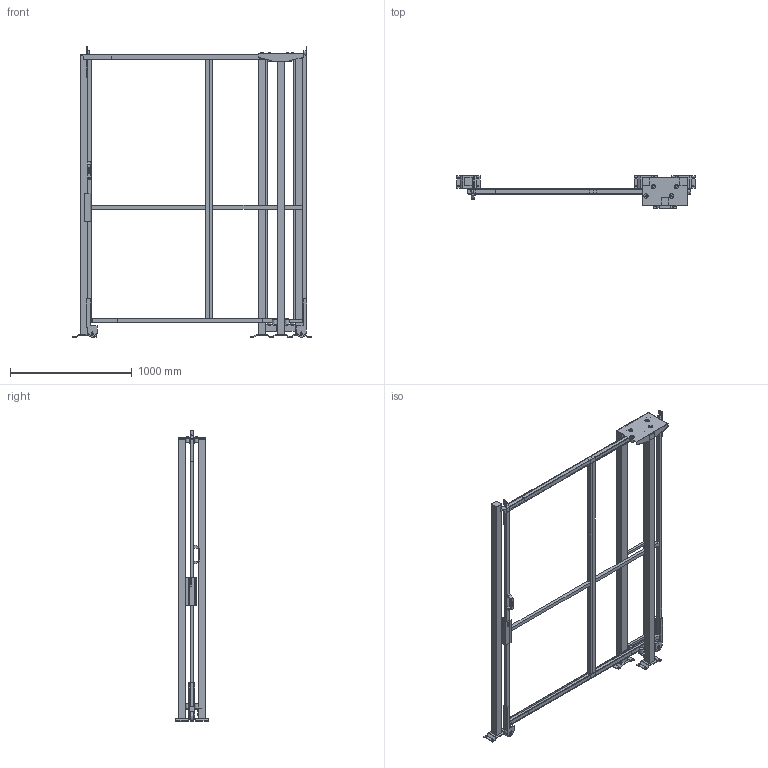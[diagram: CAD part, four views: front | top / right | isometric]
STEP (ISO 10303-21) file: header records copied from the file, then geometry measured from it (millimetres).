
FILE_DESCRIPTION(/* description */ (''),/* implementation_level */ '2;1');
FILE_NAME(/* name */ 'C:\SafeGuarding\ELABORATI\KLADKA_2025-03-20-08-17-09.stp',/* time_stamp */ '2025-03-20T08:17:11+01:00',/* author */ ('admin'),/* organization */ (''),/* preprocessor_version */ 'ST-DEVELOPER v18.1',/* originating_system */ 'AutoCAD Mechanical',/* authorisation */ '');
FILE_SCHEMA (('AUTOMOTIVE_DESIGN { 1 0 10303 214 3 1 1 }'));
Length unit declared in the file: millimetre
Products named in the file (5): Product; R_VFPA.REPE30.08002200; R_VFPA.REPE30.10002200; R_VFPA.REPE20.02502200; P_VFMA.V360SDU.2320
Assembly tree (7 placements, depth 2):
  Product
    R_VFPA.REPE30.08002200
    R_VFPA.REPE30.10002200
    R_VFPA.REPE20.02502200
    P_VFMA.V360SDU.2320  x4
Bounding box: 1962.03 x 264.11 x 2390.02 mm (x, y, z)
Volume: 51202054.2 mm3; surface area: 6679603.9 mm2
Topology: 60 solids, 71 shells, 549 faces, 1682 edges, 1675 vertices
Faces by surface type: plane 497, cylinder 50, sphere 2
Full cylindrical faces by diameter (mm): 9 x4, 11 x16, 13 x4, 30 x6, 36 x8, 80 x2
Entity records: 15763 total; most frequent: CARTESIAN_POINT 3368, DIRECTION 2394, ORIENTED_EDGE 2178, LINE 1164, VECTOR 1164, EDGE_CURVE 1138, VERTEX_POINT 798, AXIS2_PLACEMENT_3D 615
